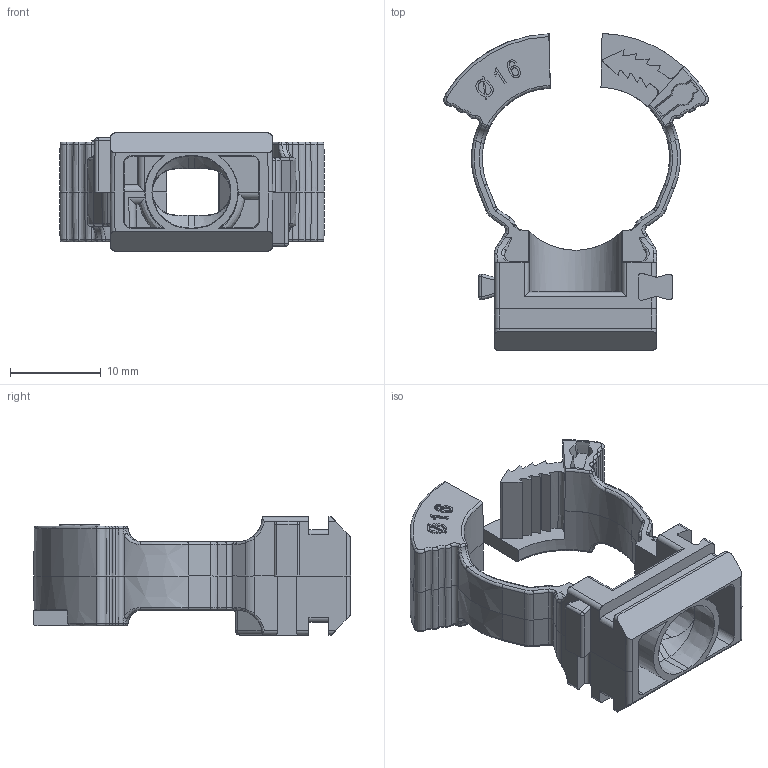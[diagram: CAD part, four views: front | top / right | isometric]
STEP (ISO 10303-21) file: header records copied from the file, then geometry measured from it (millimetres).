
FILE_DESCRIPTION(/* description */ (''),/* implementation_level */ '2;1');
FILE_NAME(/* name */ '4007002.stp',/* time_stamp */ '2019-03-04T15:09:53+01:00',/* author */ (''),/* organization */ (''),/* preprocessor_version */ 'ST-DEVELOPER v16.7',/* originating_system */ 'SIEMENS PLM Software NX 12.0',/* authorisation */ '');
FILE_SCHEMA (('AUTOMOTIVE_DESIGN { 1 0 10303 214 3 1 1 1 }'));
Length unit declared in the file: millimetre
Products named in the file (1): bsom181861C8uod1
Bounding box: 29.15 x 34.91 x 13 mm (x, y, z)
Volume: 2505.5 mm3; surface area: 3485.6 mm2
Topology: 1 solids, 1 shells, 497 faces, 1258 edges, 761 vertices
Faces by surface type: plane 185, cylinder 131, bspline 85, cone 36, torus 28, extrusion 12, revolution 11, sphere 9
Entity records: 17281 total; most frequent: CARTESIAN_POINT 5946, ORIENTED_EDGE 2490, DIRECTION 2203, EDGE_CURVE 1245, AXIS2_PLACEMENT_3D 809, VERTEX_POINT 761, VECTOR 574, LINE 562
